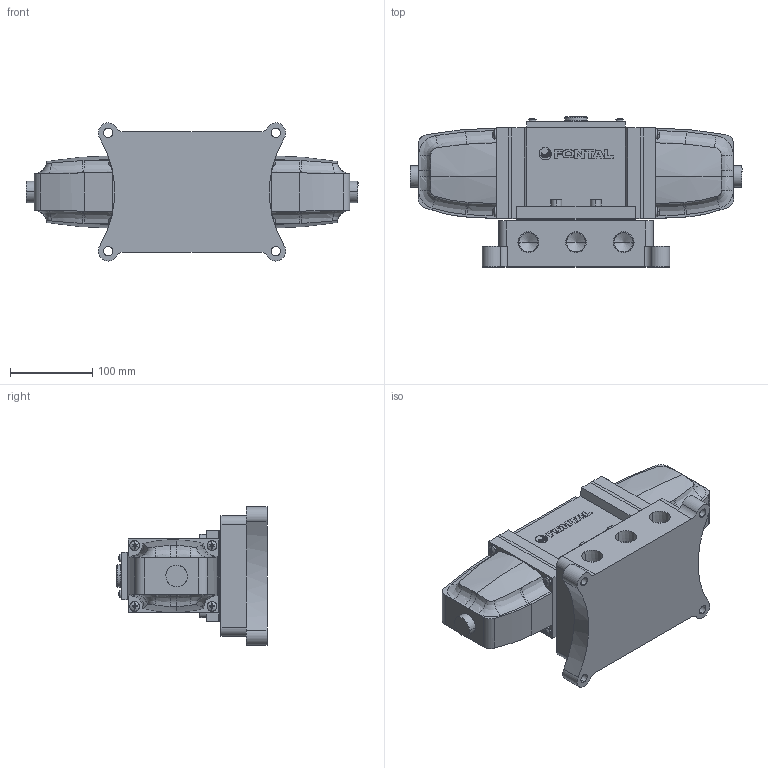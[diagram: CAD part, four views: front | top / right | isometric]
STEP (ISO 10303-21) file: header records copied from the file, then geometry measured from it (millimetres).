
FILE_DESCRIPTION (( 'STEP AP203' ), '1' );
FILE_NAME ('AD2425-08-##.STEP', '2016-03-09T03:25:50', ( 'Sam Lin' ), ( '' ), 'SwSTEP 2.0', 'SolidWorks 2013', '' );
FILE_SCHEMA (( 'CONFIG_CONTROL_DESIGN' ));
Length unit declared in the file: metre
Products named in the file (12): AS2425-6=08; A25-MARK-2415; ISO 7045 - M5 x 16; AS2325-2; AD2425-08-##; AS2325-3; ISO 7045 - M6 x 20; AS2310-4; AS2425-4; AS2425-5; ISO 4762 M8 x 30; AS2425-1
Assembly tree (26 placements, depth 2):
  AD2425-08-##
    AS2425-1
    A25-MARK-2415
    AS2325-2  x2
    AS2325-3  x2
    ISO 7045 - M6 x 20  x8
    AS2310-4
    AS2425-4
    AS2425-5
    ISO 4762 M8 x 30  x4
    AS2425-6=08
    ISO 7045 - M5 x 16  x4
Bounding box: 403.8 x 182.5 x 167.99 mm (x, y, z)
Volume: 4675160.7 mm3; surface area: 419861.4 mm2
Topology: 32 solids, 32 shells, 878 faces, 2198 edges, 1377 vertices
Faces by surface type: plane 443, cylinder 185, bspline 126, cone 108, torus 16
Entity records: 15988 total; most frequent: CARTESIAN_POINT 5079, ORIENTED_EDGE 1946, DIRECTION 1853, EDGE_CURVE 973, AXIS2_PLACEMENT_3D 661, VERTEX_POINT 632, VECTOR 531, LINE 531
